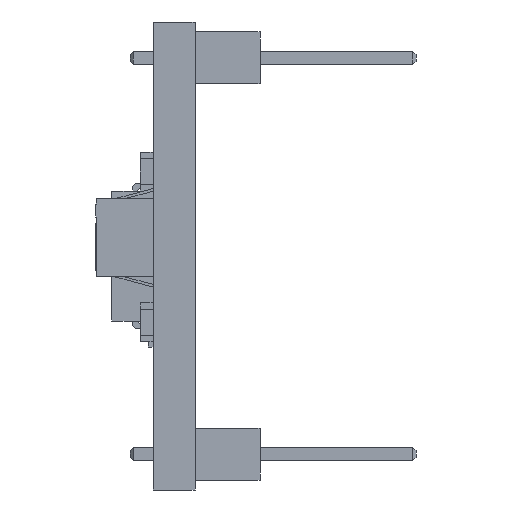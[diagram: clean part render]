
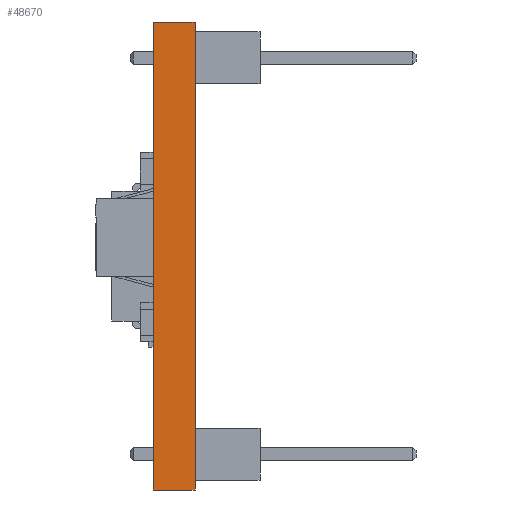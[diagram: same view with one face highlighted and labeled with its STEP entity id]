
A CAD part, left-side view. The second image highlights one B-rep face of the part: STEP entity #48670.
In plain terms, the highlighted planar face has unit normal (-1, 0, 0).
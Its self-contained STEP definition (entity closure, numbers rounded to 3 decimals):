
#2460=PLANE('',#51572);
#4653=FACE_OUTER_BOUND('',#7329,.T.);
#7329=EDGE_LOOP('',(#36954,#36955,#36956,#36957));
#9549=LINE('',#64560,#14882);
#11186=LINE('',#71052,#16519);
#11191=LINE('',#71061,#16524);
#11192=LINE('',#71063,#16525);
#14882=VECTOR('',#53823,10.);
#16519=VECTOR('',#57498,10.);
#16524=VECTOR('',#57507,10.);
#16525=VECTOR('',#57510,10.);
#20694=VERTEX_POINT('',#64558);
#20695=VERTEX_POINT('',#64559);
#22067=VERTEX_POINT('',#71050);
#22069=VERTEX_POINT('',#71059);
#25233=EDGE_CURVE('',#20694,#20695,#9549,.T.);
#27456=EDGE_CURVE('',#22067,#20694,#11186,.T.);
#27461=EDGE_CURVE('',#22069,#20695,#11191,.T.);
#27462=EDGE_CURVE('',#22067,#22069,#11192,.T.);
#36954=ORIENTED_EDGE('',*,*,#27462,.T.);
#36955=ORIENTED_EDGE('',*,*,#27461,.T.);
#36956=ORIENTED_EDGE('',*,*,#25233,.F.);
#36957=ORIENTED_EDGE('',*,*,#27456,.F.);
#48670=ADVANCED_FACE('',(#4653),#2460,.T.);
#51572=AXIS2_PLACEMENT_3D('',#71062,#57508,#57509);
#53823=DIRECTION('',(0.,0.,1.));
#57498=DIRECTION('',(0.,1.,0.));
#57507=DIRECTION('',(0.,1.,0.));
#57508=DIRECTION('center_axis',(-1.,0.,0.));
#57509=DIRECTION('ref_axis',(0.,0.,1.));
#57510=DIRECTION('',(0.,0.,1.));
#64558=CARTESIAN_POINT('',(-10.5,1.6,-9.));
#64559=CARTESIAN_POINT('',(-10.5,1.6,9.));
#64560=CARTESIAN_POINT('',(-10.5,1.6,-9.));
#71050=CARTESIAN_POINT('',(-10.5,0.,-9.));
#71052=CARTESIAN_POINT('',(-10.5,0.,-9.));
#71059=CARTESIAN_POINT('',(-10.5,0.,9.));
#71061=CARTESIAN_POINT('',(-10.5,0.,9.));
#71062=CARTESIAN_POINT('Origin',(-10.5,0.,-9.));
#71063=CARTESIAN_POINT('',(-10.5,0.,-9.));
